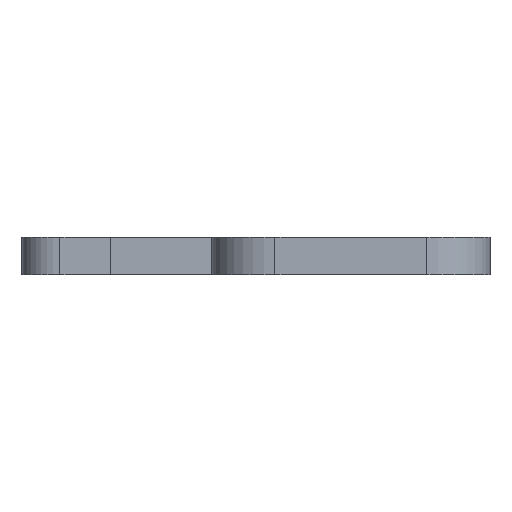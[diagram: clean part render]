
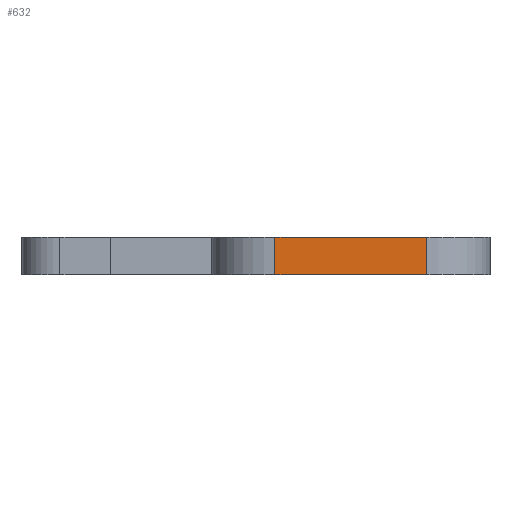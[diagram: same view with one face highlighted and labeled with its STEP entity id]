
A CAD part, left-side view. The second image highlights one B-rep face of the part: STEP entity #632.
In plain terms, the highlighted planar face has unit normal (-1, 0, 0).
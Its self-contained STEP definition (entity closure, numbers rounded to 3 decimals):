
#73 = VERTEX_POINT ( 'NONE', #349 ) ;
#74 = VERTEX_POINT ( 'NONE', #211 ) ;
#94 = EDGE_CURVE ( 'NONE', #74, #73, #379, .T. ) ;
#139 = EDGE_CURVE ( 'NONE', #816, #157, #198, .T. ) ;
#157 = VERTEX_POINT ( 'NONE', #200 ) ;
#195 = DIRECTION ( 'NONE',  ( 0., -1., 0. ) ) ;
#196 = VECTOR ( 'NONE', #195, 1000. ) ;
#197 = CARTESIAN_POINT ( 'NONE',  ( 81.196, -24.196, 0. ) ) ;
#198 = LINE ( 'NONE', #197, #196 ) ;
#200 = CARTESIAN_POINT ( 'NONE',  ( 81.196, -36.196, 0. ) ) ;
#211 = CARTESIAN_POINT ( 'NONE',  ( 81.196, -24.196, 3. ) ) ;
#237 = CARTESIAN_POINT ( 'NONE',  ( 81.196, -24.196, 3. ) ) ;
#240 = LINE ( 'NONE', #259, #256 ) ;
#256 = VECTOR ( 'NONE', #258, 1000. ) ;
#258 = DIRECTION ( 'NONE',  ( 0., 0., -1. ) ) ;
#259 = CARTESIAN_POINT ( 'NONE',  ( 81.196, -36.196, 3. ) ) ;
#260 = DIRECTION ( 'NONE',  ( 0., 0., -1. ) ) ;
#261 = VECTOR ( 'NONE', #260, 1000. ) ;
#262 = LINE ( 'NONE', #237, #261 ) ;
#268 = CARTESIAN_POINT ( 'NONE',  ( 81.196, -24.196, 3. ) ) ;
#314 = FACE_OUTER_BOUND ( 'NONE', #616, .T. ) ;
#349 = CARTESIAN_POINT ( 'NONE',  ( 81.196, -36.196, 3. ) ) ;
#377 = DIRECTION ( 'NONE',  ( 0., -1., 0. ) ) ;
#378 = VECTOR ( 'NONE', #377, 1000. ) ;
#379 = LINE ( 'NONE', #268, #378 ) ;
#493 = CARTESIAN_POINT ( 'NONE',  ( 81.196, -24.196, 0. ) ) ;
#529 = DIRECTION ( 'NONE',  ( 0., 0., -1. ) ) ;
#530 = DIRECTION ( 'NONE',  ( 1., 0., 0. ) ) ;
#531 = CARTESIAN_POINT ( 'NONE',  ( 81.196, -24.196, 3. ) ) ;
#532 = AXIS2_PLACEMENT_3D ( 'NONE', #531, #530, #529 ) ;
#533 = PLANE ( 'NONE',  #532 ) ;
#616 = EDGE_LOOP ( 'NONE', ( #633, #631, #856, #857 ) ) ;
#626 = EDGE_CURVE ( 'NONE', #74, #816, #262, .T. ) ;
#630 = EDGE_CURVE ( 'NONE', #73, #157, #240, .T. ) ;
#631 = ORIENTED_EDGE ( 'NONE', *, *, #630, .F. ) ;
#632 = ADVANCED_FACE ( 'NONE', ( #314 ), #533, .F. ) ;
#633 = ORIENTED_EDGE ( 'NONE', *, *, #139, .T. ) ;
#816 = VERTEX_POINT ( 'NONE', #493 ) ;
#856 = ORIENTED_EDGE ( 'NONE', *, *, #94, .F. ) ;
#857 = ORIENTED_EDGE ( 'NONE', *, *, #626, .T. ) ;
